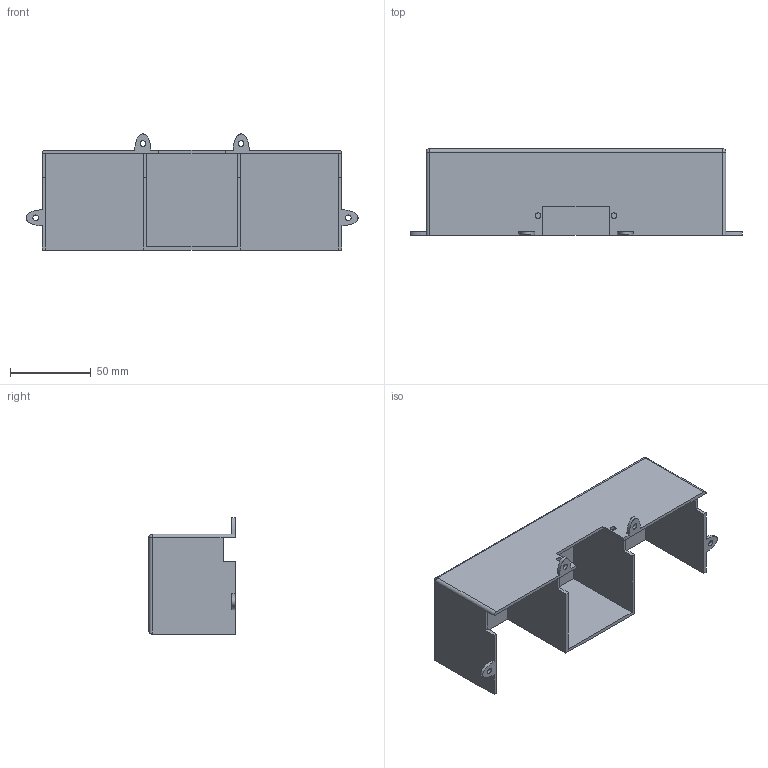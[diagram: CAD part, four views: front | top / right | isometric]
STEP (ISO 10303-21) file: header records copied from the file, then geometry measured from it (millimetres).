
FILE_DESCRIPTION(/* description */ (''),/* implementation_level */ '2;1');
FILE_NAME(/* name */ 'Z:\Flow\Inventor\Spritzenpumpe\Motorgehäuse mitte.stp',/* time_stamp */ '2018-09-10T16:22:53+02:00',/* author */ ('JN'),/* organization */ (''),/* preprocessor_version */ 'ST-DEVELOPER v16.13',/* originating_system */ 'Autodesk Inventor 2018',/* authorisation */ '');
FILE_SCHEMA (('AUTOMOTIVE_DESIGN { 1 0 10303 214 3 1 1 }'));
Length unit declared in the file: millimetre
Products named in the file (1): Motorgehäuse links mitte
Bounding box: 205.99 x 53.5 x 71.99 mm (x, y, z)
Volume: 70333 mm3; surface area: 71755 mm2
Topology: 1 solids, 1 shells, 56 faces, 152 edges, 98 vertices
Faces by surface type: plane 38, cylinder 12, bspline 4, sphere 2
Full cylindrical faces by diameter (mm): 3.5 x6
Entity records: 1763 total; most frequent: CARTESIAN_POINT 329, ORIENTED_EDGE 284, DIRECTION 278, EDGE_CURVE 142, LINE 112, VECTOR 112, VERTEX_POINT 94, AXIS2_PLACEMENT_3D 83
